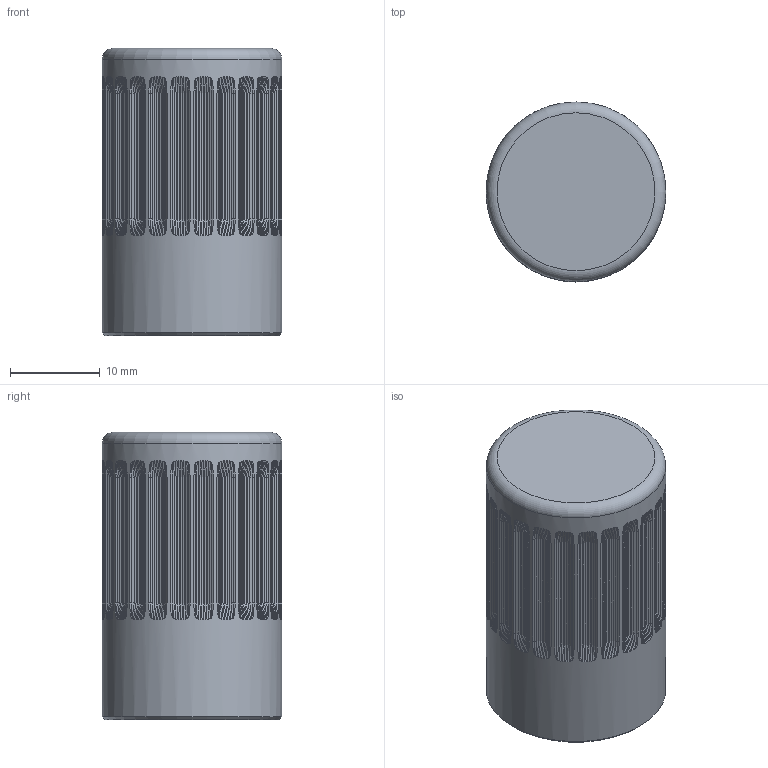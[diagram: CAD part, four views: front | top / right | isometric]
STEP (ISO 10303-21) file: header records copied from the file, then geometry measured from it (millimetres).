
FILE_DESCRIPTION(('Open CASCADE Model'),'2;1');
FILE_NAME('RL-PIN-knob-20','2026-10-19T21:24:23',('Author'),( 'Open CASCADE'),'Open CASCADE STEP processor 8.0','build123d', 'Unknown');
FILE_SCHEMA(('AUTOMOTIVE_DESIGN { 1 0 10303 214 1 1 1 1 }'));
Length unit declared in the file: millimetre
Products named in the file (2): RL-PIN-knob-20; brass_RL-PIN20__k
Assembly tree (1 placements, depth 2):
  RL-PIN-knob-20
    brass_RL-PIN20__k
Bounding box: 20 x 20 x 32 mm (x, y, z)
Volume: 9595.6 mm3; surface area: 2830.8 mm2
Topology: 1 solids, 1 shells, 873 faces, 2005 edges, 1160 vertices
Faces by surface type: bspline 576, plane 292, cylinder 3, cone 1, torus 1
Full cylindrical faces by diameter (mm): 3.3 x1, 5.1 x1, 20 x1
Entity records: 58545 total; most frequent: CARTESIAN_POINT 25502, ORIENTED_EDGE 4010, PCURVE 4010, DEFINITIONAL_REPRESENTATION 4010, B_SPLINE_CURVE_WITH_KNOTS 3340, DIRECTION 3282, LINE 2660, VECTOR 2660
